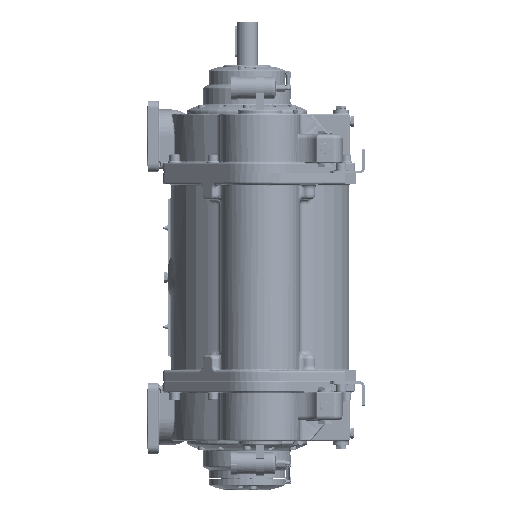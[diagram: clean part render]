
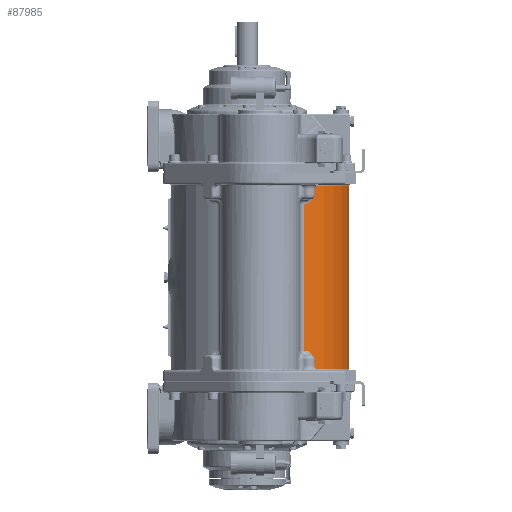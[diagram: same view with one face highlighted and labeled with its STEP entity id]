
A CAD part, front view. The second image highlights one B-rep face of the part: STEP entity #87985.
In plain terms, the highlighted cylindrical face has radius 205.5 mm (diameter 411 mm), a partial arc.
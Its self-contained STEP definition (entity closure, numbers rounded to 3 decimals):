
#7612=FACE_OUTER_BOUND('',#12969,.T.);
#12969=EDGE_LOOP('',(#63721,#63722,#63723,#63724,#63725,#63726,#63727,#63728,
#63729,#63730,#63731,#63732,#63733,#63734));
#16644=B_SPLINE_CURVE_WITH_KNOTS('',3,(#136687,#136688,#136689,#136690,
#136691,#136692,#136693),.UNSPECIFIED.,.F.,.F.,(4,1,1,1,4),(0.,0.453,
1.36,2.267,3.174),.UNSPECIFIED.);
#16645=B_SPLINE_CURVE_WITH_KNOTS('',3,(#136701,#136702,#136703,#136704,
#136705,#136706,#136707),.UNSPECIFIED.,.F.,.F.,(4,1,1,1,4),(0.,0.453,
1.36,2.267,3.174),.UNSPECIFIED.);
#20196=CIRCLE('',#95207,205.5);
#20250=CIRCLE('',#95305,205.5);
#20254=CIRCLE('',#95314,205.5);
#20255=CIRCLE('',#95315,205.5);
#20256=CIRCLE('',#95316,205.5);
#20257=CIRCLE('',#95317,205.5);
#24255=LINE('',#136656,#29969);
#24257=LINE('',#136678,#29971);
#24258=LINE('',#136682,#29972);
#24259=LINE('',#136685,#29973);
#24260=LINE('',#136697,#29974);
#24261=LINE('',#136708,#29975);
#29969=VECTOR('',#110076,10.);
#29971=VECTOR('',#110082,10.);
#29972=VECTOR('',#110085,10.);
#29973=VECTOR('',#110088,10.);
#29974=VECTOR('',#110091,10.);
#29975=VECTOR('',#110094,10.);
#36623=VERTEX_POINT('',#135809);
#36624=VERTEX_POINT('',#135813);
#36670=VERTEX_POINT('',#136605);
#36671=VERTEX_POINT('',#136609);
#36674=VERTEX_POINT('',#136655);
#36677=VERTEX_POINT('',#136677);
#36678=VERTEX_POINT('',#136679);
#36679=VERTEX_POINT('',#136681);
#36680=VERTEX_POINT('',#136684);
#36681=VERTEX_POINT('',#136686);
#36682=VERTEX_POINT('',#136694);
#36683=VERTEX_POINT('',#136696);
#36684=VERTEX_POINT('',#136698);
#36685=VERTEX_POINT('',#136700);
#46385=EDGE_CURVE('',#36624,#36623,#20196,.T.);
#46477=EDGE_CURVE('',#36670,#36671,#20250,.T.);
#46482=EDGE_CURVE('',#36671,#36674,#24255,.T.);
#46486=EDGE_CURVE('',#36624,#36677,#24257,.T.);
#46487=EDGE_CURVE('',#36677,#36678,#20254,.T.);
#46488=EDGE_CURVE('',#36678,#36679,#24258,.T.);
#46489=EDGE_CURVE('',#36674,#36679,#20255,.T.);
#46490=EDGE_CURVE('',#36680,#36670,#24259,.T.);
#46491=EDGE_CURVE('',#36681,#36680,#16644,.T.);
#46492=EDGE_CURVE('',#36682,#36681,#20256,.T.);
#46493=EDGE_CURVE('',#36683,#36682,#24260,.T.);
#46494=EDGE_CURVE('',#36683,#36684,#20257,.T.);
#46495=EDGE_CURVE('',#36684,#36685,#16645,.T.);
#46496=EDGE_CURVE('',#36685,#36623,#24261,.T.);
#63721=ORIENTED_EDGE('',*,*,#46385,.F.);
#63722=ORIENTED_EDGE('',*,*,#46486,.T.);
#63723=ORIENTED_EDGE('',*,*,#46487,.T.);
#63724=ORIENTED_EDGE('',*,*,#46488,.T.);
#63725=ORIENTED_EDGE('',*,*,#46489,.F.);
#63726=ORIENTED_EDGE('',*,*,#46482,.F.);
#63727=ORIENTED_EDGE('',*,*,#46477,.F.);
#63728=ORIENTED_EDGE('',*,*,#46490,.F.);
#63729=ORIENTED_EDGE('',*,*,#46491,.F.);
#63730=ORIENTED_EDGE('',*,*,#46492,.F.);
#63731=ORIENTED_EDGE('',*,*,#46493,.F.);
#63732=ORIENTED_EDGE('',*,*,#46494,.T.);
#63733=ORIENTED_EDGE('',*,*,#46495,.T.);
#63734=ORIENTED_EDGE('',*,*,#46496,.T.);
#80147=CYLINDRICAL_SURFACE('',#95313,205.5);
#87985=ADVANCED_FACE('',(#7612),#80147,.T.);
#95207=AXIS2_PLACEMENT_3D('',#135815,#109854,#109855);
#95305=AXIS2_PLACEMENT_3D('',#136611,#110062,#110063);
#95313=AXIS2_PLACEMENT_3D('',#136676,#110080,#110081);
#95314=AXIS2_PLACEMENT_3D('',#136680,#110083,#110084);
#95315=AXIS2_PLACEMENT_3D('',#136683,#110086,#110087);
#95316=AXIS2_PLACEMENT_3D('',#136695,#110089,#110090);
#95317=AXIS2_PLACEMENT_3D('',#136699,#110092,#110093);
#109854=DIRECTION('center_axis',(0.,0.,
-1.));
#109855=DIRECTION('ref_axis',(1.,0.,0.));
#110062=DIRECTION('center_axis',(0.,0.,
1.));
#110063=DIRECTION('ref_axis',(1.,0.,0.));
#110076=DIRECTION('',(0.,0.,-1.));
#110080=DIRECTION('center_axis',(0.,0.,
1.));
#110081=DIRECTION('ref_axis',(0.486,-0.874,0.));
#110082=DIRECTION('',(0.,0.,1.));
#110083=DIRECTION('center_axis',(0.,0.,
1.));
#110084=DIRECTION('ref_axis',(0.486,-0.874,0.));
#110085=DIRECTION('',(0.,0.,1.));
#110086=DIRECTION('center_axis',(0.,0.,
1.));
#110087=DIRECTION('ref_axis',(0.514,0.858,0.));
#110088=DIRECTION('',(0.,0.,1.));
#110089=DIRECTION('center_axis',(0.,0.,
1.));
#110090=DIRECTION('ref_axis',(0.493,-0.87,0.));
#110091=DIRECTION('',(0.,0.,1.));
#110092=DIRECTION('center_axis',(0.,0.,
1.));
#110093=DIRECTION('ref_axis',(0.486,-0.874,0.));
#110094=DIRECTION('',(0.,0.,-1.));
#135809=CARTESIAN_POINT('',(150.924,-166.155,261.2));
#135813=CARTESIAN_POINT('',(150.924,166.155,261.2));
#135815=CARTESIAN_POINT('Origin',(30.,0.,261.2));
#136605=CARTESIAN_POINT('',(150.924,-166.155,682.2));
#136609=CARTESIAN_POINT('',(150.924,166.155,682.2));
#136611=CARTESIAN_POINT('Origin',(30.,0.,682.2));
#136655=CARTESIAN_POINT('',(150.924,166.155,640.2));
#136656=CARTESIAN_POINT('',(150.924,166.155,471.7));
#136676=CARTESIAN_POINT('Origin',(30.,0.,471.7));
#136677=CARTESIAN_POINT('',(150.924,166.155,303.2));
#136678=CARTESIAN_POINT('',(150.924,166.155,471.7));
#136679=CARTESIAN_POINT('',(129.971,179.544,303.2));
#136680=CARTESIAN_POINT('Origin',(30.,0.,303.2));
#136681=CARTESIAN_POINT('',(129.971,179.544,640.2));
#136682=CARTESIAN_POINT('',(129.971,179.544,471.7));
#136683=CARTESIAN_POINT('Origin',(30.,0.,640.2));
#136684=CARTESIAN_POINT('',(150.924,-166.155,660.2));
#136685=CARTESIAN_POINT('',(150.924,-166.155,471.7));
#136686=CARTESIAN_POINT('',(134.688,-176.835,640.2));
#136687=CARTESIAN_POINT('Ctrl Pts',(134.688,-176.835,
640.2));
#136688=CARTESIAN_POINT('Ctrl Pts',(135.929,-176.101,
640.2));
#136689=CARTESIAN_POINT('Ctrl Pts',(139.627,-173.86,
640.682));
#136690=CARTESIAN_POINT('Ctrl Pts',(145.241,-170.195,
643.933));
#136691=CARTESIAN_POINT('Ctrl Pts',(149.84,-166.953,651.133));
#136692=CARTESIAN_POINT('Ctrl Pts',(150.924,-166.155,
657.177));
#136693=CARTESIAN_POINT('Ctrl Pts',(150.924,-166.155,
660.2));
#136694=CARTESIAN_POINT('',(129.971,-179.544,640.2));
#136695=CARTESIAN_POINT('Origin',(30.,0.,640.2));
#136696=CARTESIAN_POINT('',(129.971,-179.544,303.2));
#136697=CARTESIAN_POINT('',(129.971,-179.544,471.7));
#136698=CARTESIAN_POINT('',(134.688,-176.835,303.2));
#136699=CARTESIAN_POINT('Origin',(30.,0.,303.2));
#136700=CARTESIAN_POINT('',(150.924,-166.155,283.2));
#136701=CARTESIAN_POINT('Ctrl Pts',(134.688,-176.835,
303.2));
#136702=CARTESIAN_POINT('Ctrl Pts',(135.929,-176.101,
303.2));
#136703=CARTESIAN_POINT('Ctrl Pts',(139.627,-173.86,
302.718));
#136704=CARTESIAN_POINT('Ctrl Pts',(145.241,-170.195,
299.467));
#136705=CARTESIAN_POINT('Ctrl Pts',(149.84,-166.953,292.267));
#136706=CARTESIAN_POINT('Ctrl Pts',(150.924,-166.155,
286.223));
#136707=CARTESIAN_POINT('Ctrl Pts',(150.924,-166.155,
283.2));
#136708=CARTESIAN_POINT('',(150.924,-166.155,471.7));
